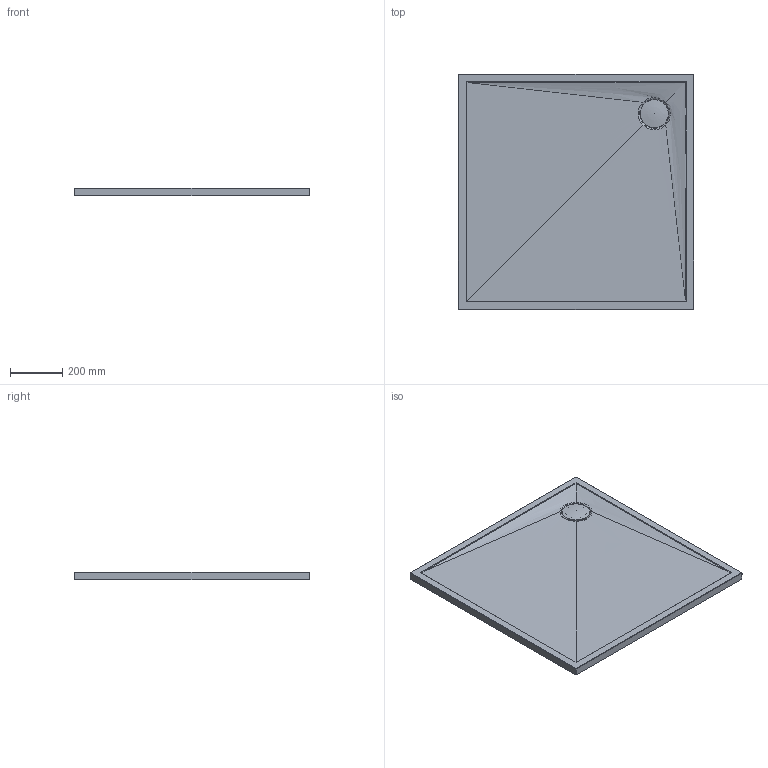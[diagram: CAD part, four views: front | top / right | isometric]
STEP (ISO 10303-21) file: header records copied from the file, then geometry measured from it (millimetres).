
FILE_DESCRIPTION(/* description */ (''),/* implementation_level */ '2;1');
FILE_NAME(/* name */ 'c:\worker\convert-fusion-r02\tmp\job-1\37\output\files\4da65e4a-8663-4ab2-bb32-867f670c90eb\5483f4f0-35ae-4d14-92e2-32d49e2e6581.stp',/* time_stamp */ '2020-03-20T10:44:43+00:00',/* author */ (''),/* organization */ (''),/* preprocessor_version */ 'ST-DEVELOPER v18',/* originating_system */ 'Autodesk Translation Framework v8.12.0.6',/* authorisation */ '');
FILE_SCHEMA (('AUTOMOTIVE_DESIGN { 1 0 10303 214 3 1 1 }'));
Length unit declared in the file: millimetre
Products named in the file (1): 90K
Bounding box: 900 x 900 x 30 mm (x, y, z)
Volume: 20227040.9 mm3; surface area: 1738378.8 mm2
Topology: 2 solids, 2 shells, 34 faces, 82 edges, 52 vertices
Faces by surface type: cylinder 10, bspline 9, plane 8, sphere 4, torus 2, cone 1
Full cylindrical faces by diameter (mm): 80.658 x1, 90 x1
Entity records: 1279 total; most frequent: CARTESIAN_POINT 476, ORIENTED_EDGE 162, DIRECTION 155, EDGE_CURVE 81, AXIS2_PLACEMENT_3D 64, VERTEX_POINT 52, CIRCLE 38, EDGE_LOOP 37
